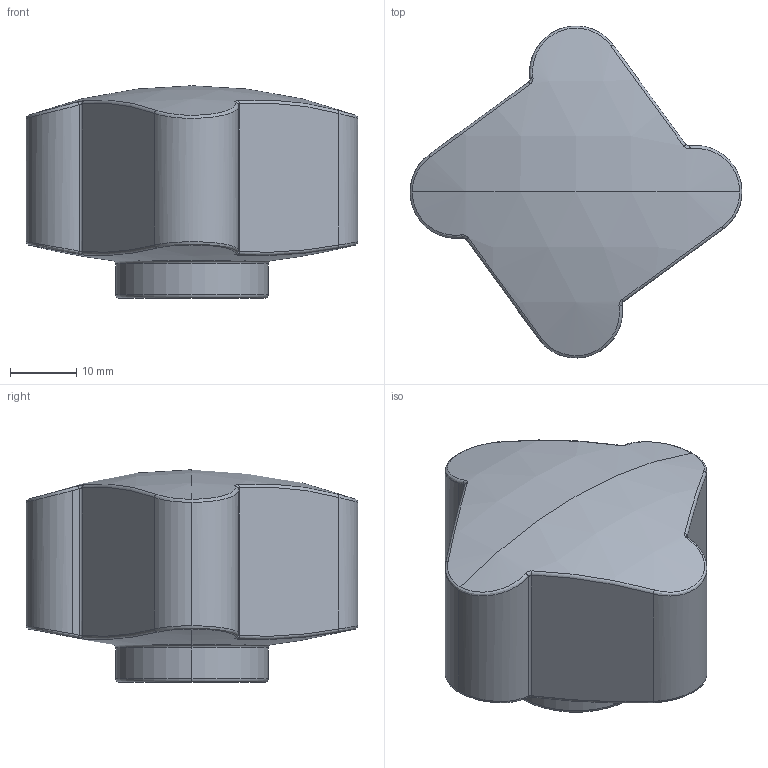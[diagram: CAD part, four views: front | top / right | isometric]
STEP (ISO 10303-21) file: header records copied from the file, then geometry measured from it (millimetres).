
FILE_DESCRIPTION (( 'STEP AP214' ), '1' );
FILE_NAME ('1120 50 306.STEP', '2010-11-26T15:32:35', ( 'Marc' ), ( '' ), 'SwSTEP 2.0', 'SolidWorks 2010', '' );
FILE_SCHEMA (( 'AUTOMOTIVE_DESIGN' ));
Length unit declared in the file: millimetre
Products named in the file (1): 1120 50 306
Bounding box: 50 x 50 x 32 mm (x, y, z)
Volume: 34917.2 mm3; surface area: 8021.9 mm2
Topology: 2 solids, 2 shells, 63 faces, 145 edges, 82 vertices
Faces by surface type: cylinder 19, bspline 16, torus 12, cone 6, plane 6, sphere 4
Entity records: 5294 total; most frequent: CARTESIAN_POINT 3844, ORIENTED_EDGE 278, DIRECTION 261, EDGE_CURVE 139, AXIS2_PLACEMENT_3D 116, VERTEX_POINT 82, CIRCLE 68, EDGE_LOOP 65
